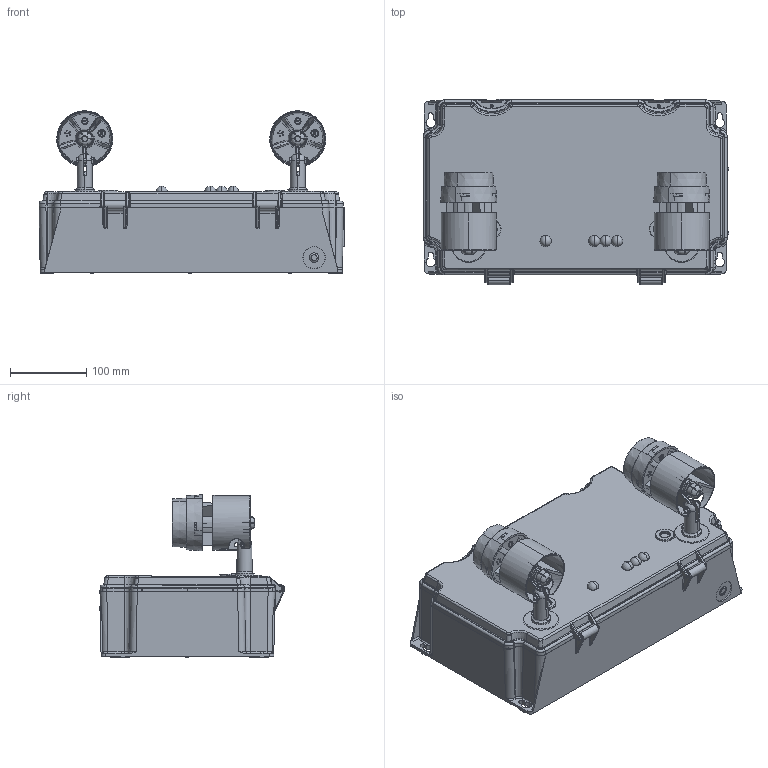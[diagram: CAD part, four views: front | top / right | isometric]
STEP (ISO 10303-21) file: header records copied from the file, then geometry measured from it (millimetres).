
FILE_DESCRIPTION (( 'STEP AP214' ), '1' );
FILE_NAME ('PLANETE 2000 - BIM.STEP', '2020-01-15T09:02:59', ( '' ), ( '' ), 'SwSTEP 2.0', 'SolidWorks 2016', '' );
FILE_SCHEMA (( 'AUTOMOTIVE_DESIGN' ));
Length unit declared in the file: millimetre
Products named in the file (12): 2BO7423000 Pr1-Corps alu petit phare LED_1; 2bo7434000 c-fond étanche 2000lm; écrou Nylstop M5; abo0051600-passe-fil_dg13.5; PLANETE 2000 - BIM; 2bo7434100 a-capot etanche 2000lm; V CHc M5x20; 3BO7416300 D-Pied de fixation Phare LED; 2BO7415400 A-Capot PC phare LED; ABO0001400-PE9; 5bo7388100 a-guide lumière-2000lm; Phare complet
Assembly tree (17 placements, depth 3):
  PLANETE 2000 - BIM
    2bo7434000 c-fond étanche 2000lm
    2bo7434100 a-capot etanche 2000lm
    5bo7388100 a-guide lumière-2000lm  x4
    Phare complet  x2
      2BO7423000 Pr1-Corps alu petit phare LED_1
      ABO0001400-PE9
      2BO7415400 A-Capot PC phare LED
      V CHc M5x20
      écrou Nylstop M5
    3BO7416300 D-Pied de fixation Phare LED  x2
    abo0051600-passe-fil_dg13.5  x2
Bounding box: 402 x 244 x 213.51 mm (x, y, z)
Volume: 1413802.5 mm3; surface area: 837081.7 mm2
Topology: 69 solids, 69 shells, 4168 faces, 10751 edges, 6896 vertices
Faces by surface type: plane 2169, bspline 789, cylinder 693, cone 284, torus 210, sphere 23
Entity records: 148204 total; most frequent: CARTESIAN_POINT 63489, ORIENTED_EDGE 17210, DIRECTION 13580, EDGE_CURVE 8605, VERTEX_POINT 5522, VECTOR 5022, LINE 5022, AXIS2_PLACEMENT_3D 4279
